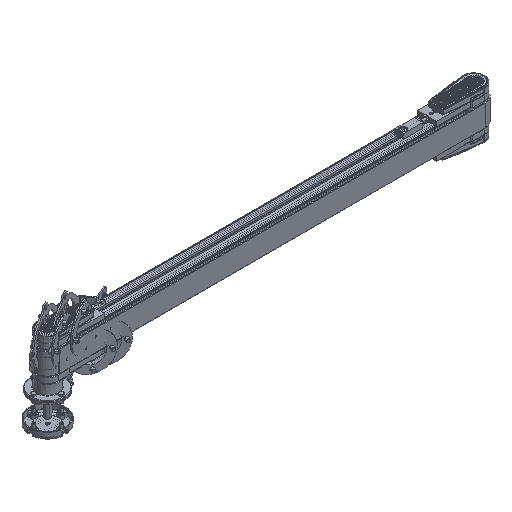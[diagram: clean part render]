
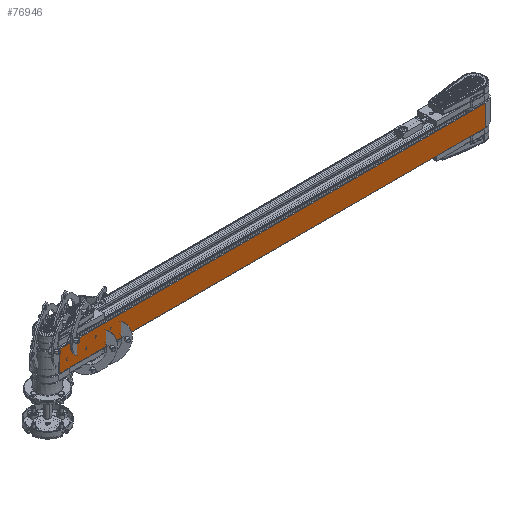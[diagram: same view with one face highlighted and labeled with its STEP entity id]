
A CAD part, isometric view. The second image highlights one B-rep face of the part: STEP entity #76946.
In plain terms, the highlighted planar face has unit normal (0, -1, 0).
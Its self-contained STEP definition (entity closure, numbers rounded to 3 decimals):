
#894 = EDGE_CURVE ( 'NONE', #71702, #35695, #16620, .T. ) ;
#1599 = LINE ( 'NONE', #82710, #33542 ) ;
#6001 = CARTESIAN_POINT ( 'NONE',  ( -500., -27., 25. ) ) ;
#9122 = EDGE_CURVE ( 'NONE', #46599, #62246, #49886, .T. ) ;
#15317 = CARTESIAN_POINT ( 'NONE',  ( 500., -27., -25. ) ) ;
#16620 = LINE ( 'NONE', #42897, #76195 ) ;
#17354 = CARTESIAN_POINT ( 'NONE',  ( -500., -27., 25. ) ) ;
#24344 = DIRECTION ( 'NONE',  ( 0., 0., 1. ) ) ;
#26408 = VECTOR ( 'NONE', #39837, 1000. ) ;
#32610 = CARTESIAN_POINT ( 'NONE',  ( -500., -27., -25. ) ) ;
#33542 = VECTOR ( 'NONE', #55065, 1000. ) ;
#35695 = VERTEX_POINT ( 'NONE', #15317 ) ;
#39837 = DIRECTION ( 'NONE',  ( 0., 0., -1. ) ) ;
#42048 = DIRECTION ( 'NONE',  ( 0., 0., -1. ) ) ;
#42295 = LINE ( 'NONE', #32610, #62188 ) ;
#42897 = CARTESIAN_POINT ( 'NONE',  ( 500., -27., 25. ) ) ;
#43634 = DIRECTION ( 'NONE',  ( 0., 1., 0. ) ) ;
#44081 = EDGE_CURVE ( 'NONE', #46599, #71702, #1599, .T. ) ;
#46599 = VERTEX_POINT ( 'NONE', #6001 ) ;
#46933 = ORIENTED_EDGE ( 'NONE', *, *, #44081, .F. ) ;
#49286 = ORIENTED_EDGE ( 'NONE', *, *, #9122, .T. ) ;
#49886 = LINE ( 'NONE', #54302, #26408 ) ;
#51095 = PLANE ( 'NONE',  #74605 ) ;
#52034 = CARTESIAN_POINT ( 'NONE',  ( 500., -27., 25. ) ) ;
#52092 = EDGE_CURVE ( 'NONE', #62246, #35695, #42295, .T. ) ;
#52564 = CARTESIAN_POINT ( 'NONE',  ( -500., -27., -25. ) ) ;
#54302 = CARTESIAN_POINT ( 'NONE',  ( -500., -27., 25. ) ) ;
#55065 = DIRECTION ( 'NONE',  ( 1., 0., 0. ) ) ;
#55324 = ORIENTED_EDGE ( 'NONE', *, *, #894, .F. ) ;
#56323 = EDGE_LOOP ( 'NONE', ( #71316, #55324, #46933, #49286 ) ) ;
#57216 = FACE_OUTER_BOUND ( 'NONE', #56323, .T. ) ;
#62188 = VECTOR ( 'NONE', #65921, 1000. ) ;
#62246 = VERTEX_POINT ( 'NONE', #52564 ) ;
#65921 = DIRECTION ( 'NONE',  ( 1., 0., 0. ) ) ;
#71316 = ORIENTED_EDGE ( 'NONE', *, *, #52092, .T. ) ;
#71702 = VERTEX_POINT ( 'NONE', #52034 ) ;
#74605 = AXIS2_PLACEMENT_3D ( 'NONE', #17354, #43634, #24344 ) ;
#76195 = VECTOR ( 'NONE', #42048, 1000. ) ;
#76946 = ADVANCED_FACE ( 'NONE', ( #57216 ), #51095, .F. ) ;
#82710 = CARTESIAN_POINT ( 'NONE',  ( -500., -27., 25. ) ) ;
